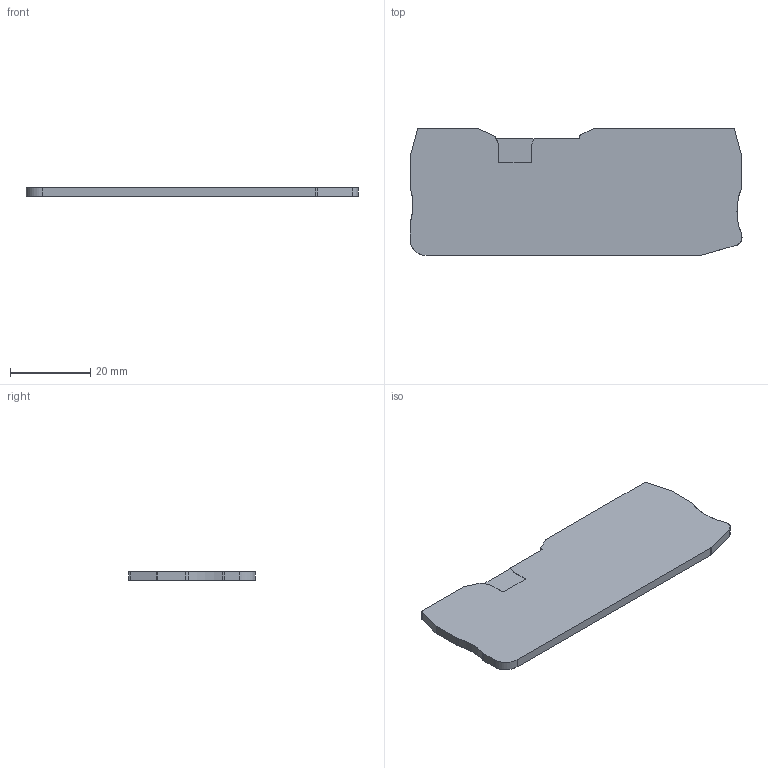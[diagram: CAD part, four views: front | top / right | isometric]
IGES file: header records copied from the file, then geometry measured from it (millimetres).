
Global section: file name: 3206571_d_qtc25_twin_select.igs; native system: OneSpace Designer 3D IGES; preprocessor: 12.01C  26-Mar-2004; date: 20050303.132633; units: millimetre
Bounding box: 82.5 x 31.55 x 2.2 mm (x, y, z)
Surface area: 5490.4 mm2 (no closed solid volume)
Topology: 0 solids, 0 shells, 49 faces, 386 edges, 386 vertices
Faces by surface type: bspline 49
